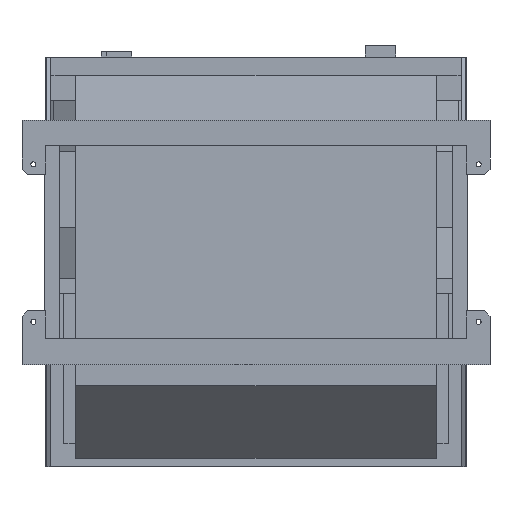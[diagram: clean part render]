
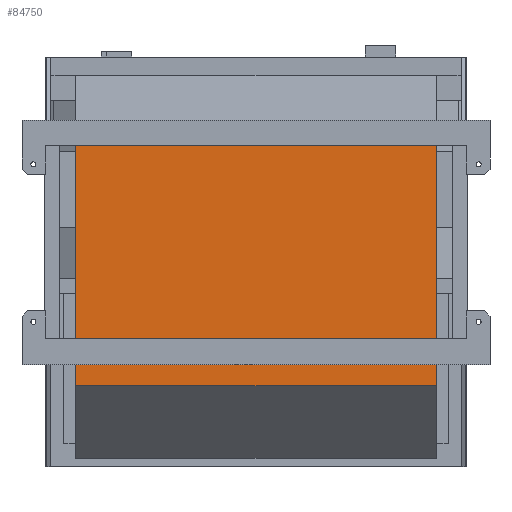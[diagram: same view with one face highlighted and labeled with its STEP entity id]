
A CAD part, front view. The second image highlights one B-rep face of the part: STEP entity #84750.
In plain terms, the highlighted planar face has unit normal (0, -1, 0).
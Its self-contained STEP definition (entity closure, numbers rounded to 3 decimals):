
#83198=DIRECTION('',(0.,0.,1.));
#83199=VECTOR('',#83198,48.249);
#83200=CARTESIAN_POINT('',(35.5,-48.938,12.846));
#83201=LINE('',#83200,#83199);
#83470=DIRECTION('',(1.,0.,0.));
#83471=VECTOR('',#83470,71.);
#83472=CARTESIAN_POINT('',(-35.5,-48.938,61.095));
#83473=LINE('',#83472,#83471);
#83474=DIRECTION('',(-1.,0.,0.));
#83475=VECTOR('',#83474,71.);
#83476=CARTESIAN_POINT('',(35.5,-48.938,12.846));
#83477=LINE('',#83476,#83475);
#83478=DIRECTION('',(0.,0.,1.));
#83479=VECTOR('',#83478,48.249);
#83480=CARTESIAN_POINT('',(-35.5,-48.938,12.846));
#83481=LINE('',#83480,#83479);
#83570=CARTESIAN_POINT('',(35.5,-48.938,12.846));
#83571=CARTESIAN_POINT('',(-35.5,-48.938,12.846));
#83572=VERTEX_POINT('',#83570);
#83573=VERTEX_POINT('',#83571);
#83583=CARTESIAN_POINT('',(35.5,-48.938,61.095));
#83585=VERTEX_POINT('',#83583);
#83586=CARTESIAN_POINT('',(-35.5,-48.938,61.095));
#83587=VERTEX_POINT('',#83586);
#84738=CARTESIAN_POINT('',(-35.5,-48.938,0.));
#84739=DIRECTION('',(0.,-1.,0.));
#84740=DIRECTION('',(1.,0.,0.));
#84741=AXIS2_PLACEMENT_3D('',#84738,#84739,#84740);
#84742=PLANE('',#84741);
#84744=ORIENTED_EDGE('',*,*,#84743,.T.);
#84745=ORIENTED_EDGE('',*,*,#84305,.F.);
#84746=ORIENTED_EDGE('',*,*,#84733,.T.);
#84747=ORIENTED_EDGE('',*,*,#83931,.T.);
#84748=EDGE_LOOP('',(#84744,#84745,#84746,#84747));
#84749=FACE_OUTER_BOUND('',#84748,.F.);
#84750=ADVANCED_FACE('',(#84749),#84742,.T.);
#83931=EDGE_CURVE('',#83573,#83587,#83481,.T.);
#84305=EDGE_CURVE('',#83572,#83585,#83201,.T.);
#84733=EDGE_CURVE('',#83572,#83573,#83477,.T.);
#84743=EDGE_CURVE('',#83587,#83585,#83473,.T.);
